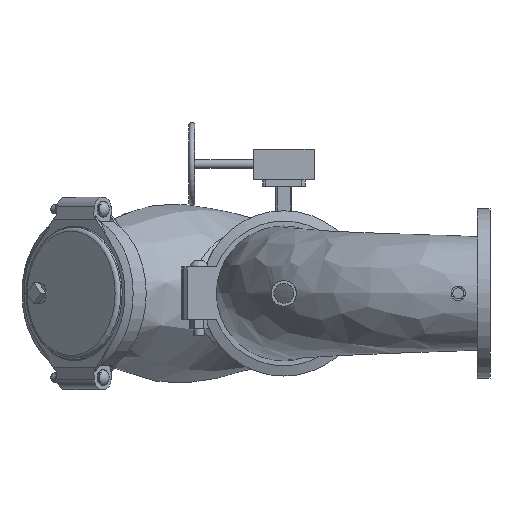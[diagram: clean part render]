
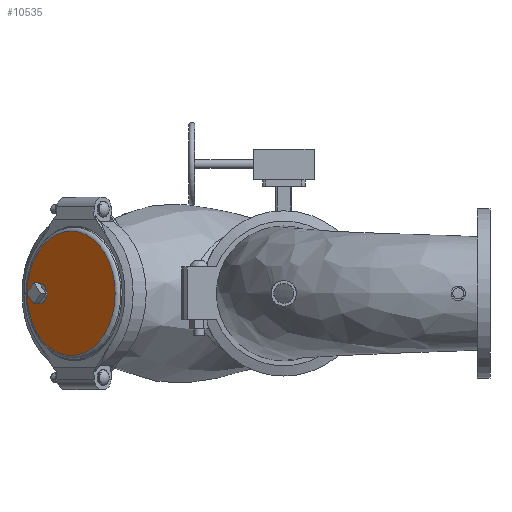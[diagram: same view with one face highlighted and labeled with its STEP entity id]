
A CAD part, front view. The second image highlights one B-rep face of the part: STEP entity #10535.
In plain terms, the highlighted planar face has unit normal (-0.707, -0.707, 0) as drawn and (1, 0, 0) by its records, which use the part's own axes.
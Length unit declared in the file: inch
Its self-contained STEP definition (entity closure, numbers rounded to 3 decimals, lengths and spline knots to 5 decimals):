
#2024=FACE_BOUND('',#3014,.T.);
#2382=FACE_OUTER_BOUND('',#3013,.T.);
#3013=EDGE_LOOP('',(#7780,#7781));
#3014=EDGE_LOOP('',(#7782));
#3644=CIRCLE('',#11652,1.);
#3652=CIRCLE('',#11663,5.8855);
#3653=CIRCLE('',#11664,5.8855);
#4446=VERTEX_POINT('',#21381);
#4454=VERTEX_POINT('',#21402);
#4455=VERTEX_POINT('',#21403);
#5651=EDGE_CURVE('',#4446,#4446,#3644,.T.);
#5660=EDGE_CURVE('',#4454,#4455,#3652,.T.);
#5661=EDGE_CURVE('',#4455,#4454,#3653,.T.);
#7780=ORIENTED_EDGE('',*,*,#5660,.T.);
#7781=ORIENTED_EDGE('',*,*,#5661,.T.);
#7782=ORIENTED_EDGE('',*,*,#5651,.T.);
#9497=PLANE('',#11666);
#10535=ADVANCED_FACE('',(#2382,#2024),#9497,.T.);
#11652=AXIS2_PLACEMENT_3D('',#21383,#13712,#13713);
#11663=AXIS2_PLACEMENT_3D('',#21404,#13735,#13736);
#11664=AXIS2_PLACEMENT_3D('',#21405,#13737,#13738);
#11666=AXIS2_PLACEMENT_3D('',#21407,#13741,#13742);
#13712=DIRECTION('center_axis',(-1.,0.,0.));
#13713=DIRECTION('ref_axis',(0.,0.,1.));
#13735=DIRECTION('center_axis',(1.,0.,0.));
#13736=DIRECTION('ref_axis',(0.,0.,-1.));
#13737=DIRECTION('center_axis',(1.,0.,0.));
#13738=DIRECTION('ref_axis',(0.,0.,-1.));
#13741=DIRECTION('center_axis',(1.,0.,0.));
#13742=DIRECTION('ref_axis',(0.,0.,-1.));
#21381=CARTESIAN_POINT('',(1.68,4.25,-1.));
#21383=CARTESIAN_POINT('Origin',(1.68,4.25,0.));
#21402=CARTESIAN_POINT('',(1.68,5.8855,0.));
#21403=CARTESIAN_POINT('',(1.68,0.,5.8855));
#21404=CARTESIAN_POINT('Origin',(1.68,0.,0.));
#21405=CARTESIAN_POINT('Origin',(1.68,0.,0.));
#21407=CARTESIAN_POINT('Origin',(1.68,0.,0.));
